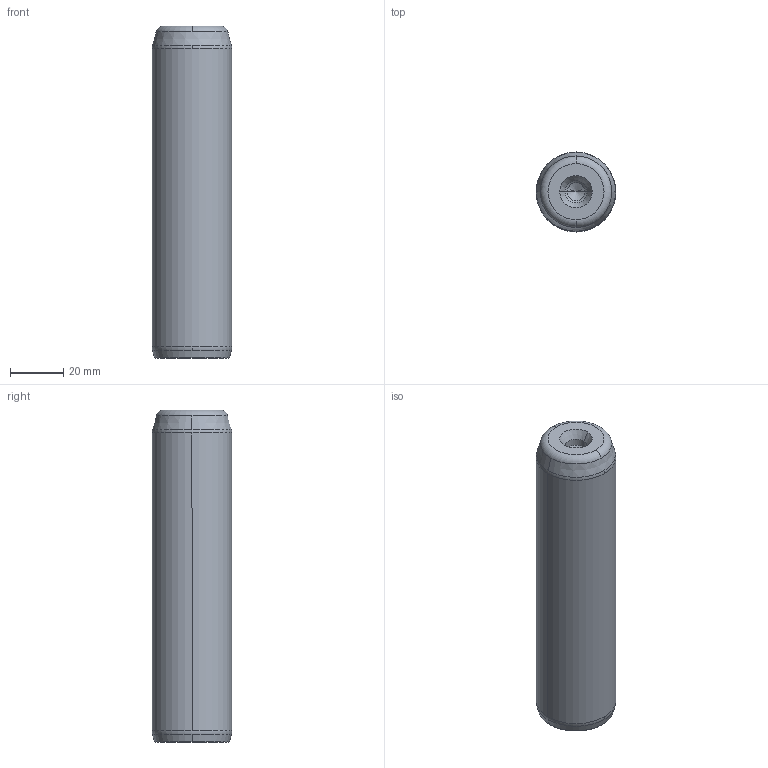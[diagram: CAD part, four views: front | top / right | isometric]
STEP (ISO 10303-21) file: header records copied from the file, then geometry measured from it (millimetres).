
FILE_DESCRIPTION((''),'2;1');
FILE_NAME('P10_030_125.stp','2008-12-23T14:58:30',(''),(''),'Mechanical Desktop 2009','Mechanical Desktop 2009',', , ');
FILE_SCHEMA(('CONFIG_CONTROL_DESIGN'));
Length unit declared in the file: millimetre
Products named in the file (5): Product; ProductAA; blmdl1; ProductA; blmdl1A
Assembly tree (2 placements, depth 3):
  Product
    ProductAA
      blmdl1
  ProductA
  blmdl1A
Bounding box: 30 x 30 x 125 mm (x, y, z)
Volume: 86203.5 mm3; surface area: 13363.7 mm2
Topology: 1 solids, 1 shells, 26 faces, 66 edges, 41 vertices
Faces by surface type: cone 10, torus 8, cylinder 6, plane 2
Entity records: 1012 total; most frequent: DIRECTION 170, CARTESIAN_POINT 134, ORIENTED_EDGE 128, AXIS2_PLACEMENT_3D 77, EDGE_CURVE 64, CIRCLE 48, VERTEX_POINT 41, EDGE_LOOP 27
